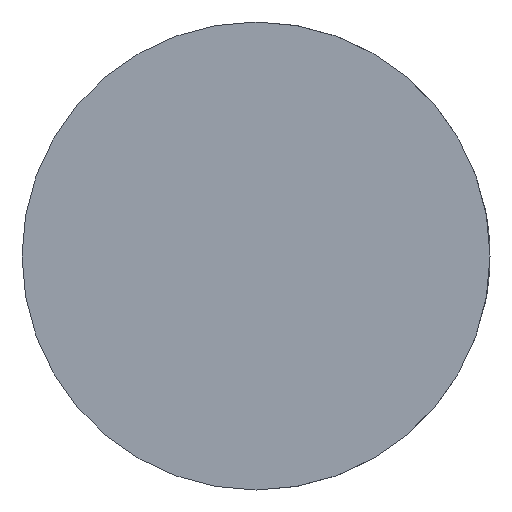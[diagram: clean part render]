
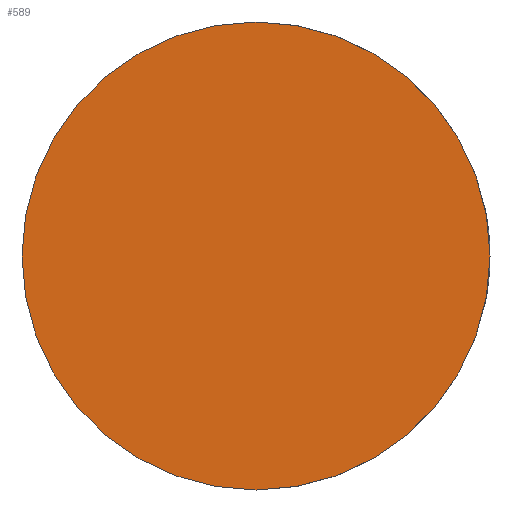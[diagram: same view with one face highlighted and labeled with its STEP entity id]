
A CAD part, front view. The second image highlights one B-rep face of the part: STEP entity #589.
In plain terms, the highlighted planar face has unit normal (0, -1, 0).
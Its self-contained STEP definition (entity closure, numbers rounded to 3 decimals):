
#69 = CARTESIAN_POINT ( 'NONE',  ( 0., 0., 0. ) ) ;
#197 = ORIENTED_EDGE ( 'NONE', *, *, #417, .T. ) ;
#359 = CIRCLE ( 'NONE', #1709, 27.5 ) ;
#417 = EDGE_CURVE ( 'NONE', #2159, #1209, #359, .T. ) ;
#426 = AXIS2_PLACEMENT_3D ( 'NONE', #777, #787, #1513 ) ;
#447 = DIRECTION ( 'NONE',  ( 0., 0., -1. ) ) ;
#523 = CARTESIAN_POINT ( 'NONE',  ( 0., 0., -27.5 ) ) ;
#557 = CARTESIAN_POINT ( 'NONE',  ( 0., 0., 27.5 ) ) ;
#560 = CARTESIAN_POINT ( 'NONE',  ( 0., 0., 0. ) ) ;
#589 = ADVANCED_FACE ( 'NONE', ( #1114 ), #1686, .T. ) ;
#619 = CIRCLE ( 'NONE', #426, 27.5 ) ;
#777 = CARTESIAN_POINT ( 'NONE',  ( 0., 0., 0. ) ) ;
#787 = DIRECTION ( 'NONE',  ( 0., -1., 0. ) ) ;
#812 = DIRECTION ( 'NONE',  ( 0., -1., 0. ) ) ;
#1114 = FACE_OUTER_BOUND ( 'NONE', #1905, .T. ) ;
#1126 = DIRECTION ( 'NONE',  ( 0., 0., -1. ) ) ;
#1209 = VERTEX_POINT ( 'NONE', #557 ) ;
#1368 = AXIS2_PLACEMENT_3D ( 'NONE', #560, #2047, #1126 ) ;
#1513 = DIRECTION ( 'NONE',  ( 0., 0., -1. ) ) ;
#1686 = PLANE ( 'NONE',  #1368 ) ;
#1693 = ORIENTED_EDGE ( 'NONE', *, *, #2020, .T. ) ;
#1709 = AXIS2_PLACEMENT_3D ( 'NONE', #69, #812, #447 ) ;
#1905 = EDGE_LOOP ( 'NONE', ( #1693, #197 ) ) ;
#2020 = EDGE_CURVE ( 'NONE', #1209, #2159, #619, .T. ) ;
#2047 = DIRECTION ( 'NONE',  ( 0., -1., 0. ) ) ;
#2159 = VERTEX_POINT ( 'NONE', #523 ) ;
